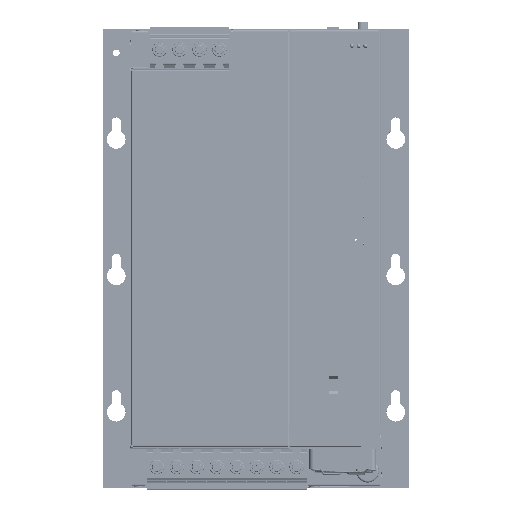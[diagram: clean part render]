
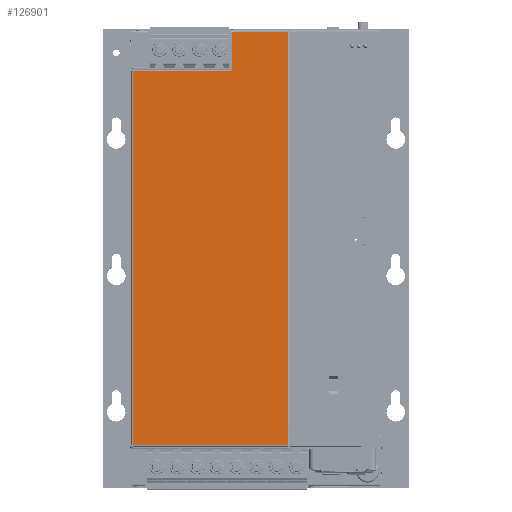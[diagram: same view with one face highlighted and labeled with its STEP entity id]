
A CAD part, top view. The second image highlights one B-rep face of the part: STEP entity #126901.
In plain terms, the highlighted planar face has unit normal (0, 0, 1) as drawn and (0, 1, 0) by its records, which use the part's own axes.
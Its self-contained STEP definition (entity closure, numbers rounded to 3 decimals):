
#20320 = ORIENTED_EDGE ( 'NONE', *, *, #246068, .T. ) ;
#20323 = ORIENTED_EDGE ( 'NONE', *, *, #246056, .T. ) ;
#20327 = ORIENTED_EDGE ( 'NONE', *, *, #245774, .T. ) ;
#20330 = ORIENTED_EDGE ( 'NONE', *, *, #246046, .T. ) ;
#20332 = ORIENTED_EDGE ( 'NONE', *, *, #245750, .F. ) ;
#20343 = ORIENTED_EDGE ( 'NONE', *, *, #246042, .T. ) ;
#20355 = ORIENTED_EDGE ( 'NONE', *, *, #246034, .T. ) ;
#20377 = ORIENTED_EDGE ( 'NONE', *, *, #246024, .T. ) ;
#20388 = ORIENTED_EDGE ( 'NONE', *, *, #245666, .F. ) ;
#20395 = ORIENTED_EDGE ( 'NONE', *, *, #246019, .T. ) ;
#20402 = ORIENTED_EDGE ( 'NONE', *, *, #245688, .T. ) ;
#20411 = ORIENTED_EDGE ( 'NONE', *, *, #245468, .T. ) ;
#20416 = ORIENTED_EDGE ( 'NONE', *, *, #246014, .T. ) ;
#20418 = ORIENTED_EDGE ( 'NONE', *, *, #245477, .T. ) ;
#20421 = ORIENTED_EDGE ( 'NONE', *, *, #245364, .T. ) ;
#20422 = ORIENTED_EDGE ( 'NONE', *, *, #246009, .T. ) ;
#20423 = ORIENTED_EDGE ( 'NONE', *, *, #245339, .F. ) ;
#20424 = ORIENTED_EDGE ( 'NONE', *, *, #246072, .T. ) ;
#30518 = EDGE_LOOP ( 'NONE', ( #20424, #20423, #20422, #20421, #20418, #20416, #20411, #20402, #20395, #20388, #20377, #20355, #20343, #20332, #20330, #20327, #20323, #20320 ) ) ;
#36110 = LINE ( 'NONE', #79338, #36116 ) ;
#36116 = VECTOR ( 'NONE', #79344, 1000. ) ;
#36154 = LINE ( 'NONE', #79449, #36161 ) ;
#36161 = VECTOR ( 'NONE', #79454, 1000. ) ;
#36509 = LINE ( 'NONE', #80438, #36538 ) ;
#36538 = VECTOR ( 'NONE', #80468, 1000. ) ;
#36556 = LINE ( 'NONE', #80509, #36578 ) ;
#36578 = VECTOR ( 'NONE', #80546, 1000. ) ;
#55904 = CARTESIAN_POINT ( 'NONE',  ( 22.8, 20., 170.05 ) ) ;
#55914 = CARTESIAN_POINT ( 'NONE',  ( -18.2, 20., -140.75 ) ) ;
#55944 = CARTESIAN_POINT ( 'NONE',  ( 22.8, 20., 170.25 ) ) ;
#55948 = CARTESIAN_POINT ( 'NONE',  ( -18.2, 20., -140.55 ) ) ;
#55974 = CARTESIAN_POINT ( 'NONE',  ( -93.55, 20., 170.05 ) ) ;
#56045 = CARTESIAN_POINT ( 'NONE',  ( -19.4, 20., -111.05 ) ) ;
#56047 = CARTESIAN_POINT ( 'NONE',  ( 23., 20., -140.55 ) ) ;
#56054 = CARTESIAN_POINT ( 'NONE',  ( 23., 20., 170.05 ) ) ;
#56080 = CARTESIAN_POINT ( 'NONE',  ( -20.4, 20., -111.25 ) ) ;
#56083 = CARTESIAN_POINT ( 'NONE',  ( -20.4, 20., -111.05 ) ) ;
#56155 = CARTESIAN_POINT ( 'NONE',  ( -93.55, 20., -111.05 ) ) ;
#56162 = CARTESIAN_POINT ( 'NONE',  ( -93.55, 20., -111.25 ) ) ;
#56165 = CARTESIAN_POINT ( 'NONE',  ( -93.75, 20., -111.05 ) ) ;
#56230 = CARTESIAN_POINT ( 'NONE',  ( -93.55, 20., 170.25 ) ) ;
#73270 = VERTEX_POINT ( 'NONE', #76017 ) ;
#73827 = VERTEX_POINT ( 'NONE', #76744 ) ;
#75153 = VERTEX_POINT ( 'NONE', #77876 ) ;
#75156 = VERTEX_POINT ( 'NONE', #77880 ) ;
#76017 = CARTESIAN_POINT ( 'NONE',  ( -93.75, 20., 170.05 ) ) ;
#76637 = VERTEX_POINT ( 'NONE', #55904 ) ;
#76654 = VERTEX_POINT ( 'NONE', #55914 ) ;
#76713 = VERTEX_POINT ( 'NONE', #55944 ) ;
#76722 = VERTEX_POINT ( 'NONE', #55948 ) ;
#76744 = CARTESIAN_POINT ( 'NONE',  ( -19.4, 20., -140.55 ) ) ;
#76773 = VERTEX_POINT ( 'NONE', #55974 ) ;
#76909 = VERTEX_POINT ( 'NONE', #56045 ) ;
#76914 = VERTEX_POINT ( 'NONE', #56047 ) ;
#76927 = VERTEX_POINT ( 'NONE', #56054 ) ;
#76976 = VERTEX_POINT ( 'NONE', #56080 ) ;
#76979 = VERTEX_POINT ( 'NONE', #56083 ) ;
#77133 = VERTEX_POINT ( 'NONE', #56155 ) ;
#77147 = VERTEX_POINT ( 'NONE', #56162 ) ;
#77151 = VERTEX_POINT ( 'NONE', #56165 ) ;
#77591 = VERTEX_POINT ( 'NONE', #56230 ) ;
#77876 = CARTESIAN_POINT ( 'NONE',  ( 22.8, 20., -140.75 ) ) ;
#77880 = CARTESIAN_POINT ( 'NONE',  ( 22.8, 20., -140.55 ) ) ;
#79338 = CARTESIAN_POINT ( 'NONE',  ( -20.4, 20., -111.25 ) ) ;
#79344 = DIRECTION ( 'NONE',  ( 0., 0., 1. ) ) ;
#79449 = CARTESIAN_POINT ( 'NONE',  ( -93.55, 20., -111.05 ) ) ;
#79454 = DIRECTION ( 'NONE',  ( 0., 0., 1. ) ) ;
#80438 = CARTESIAN_POINT ( 'NONE',  ( -93.55, 20., 170.05 ) ) ;
#80468 = DIRECTION ( 'NONE',  ( 1., 0., 0. ) ) ;
#80509 = CARTESIAN_POINT ( 'NONE',  ( -94.75, 20., -111.05 ) ) ;
#80546 = DIRECTION ( 'NONE',  ( -1., 0., 0. ) ) ;
#81922 = CARTESIAN_POINT ( 'NONE',  ( 22.8, 20., 171.25 ) ) ;
#81940 = DIRECTION ( 'NONE',  ( 0., 0., 1. ) ) ;
#82072 = CARTESIAN_POINT ( 'NONE',  ( -93.55, 20., 171.25 ) ) ;
#82088 = DIRECTION ( 'NONE',  ( 0., 0., 1. ) ) ;
#106038 = AXIS2_PLACEMENT_3D ( 'NONE', #203781, #203766, #203787 ) ;
#126901 = ADVANCED_FACE ( 'NONE', ( #200102 ), #203784, .T. ) ;
#200102 = FACE_OUTER_BOUND ( 'NONE', #30518, .T. ) ;
#203766 = DIRECTION ( 'NONE',  ( 0., 1., 0. ) ) ;
#203781 = CARTESIAN_POINT ( 'NONE',  ( 24., 20., 171.25 ) ) ;
#203784 = PLANE ( 'NONE',  #106038 ) ;
#203787 = DIRECTION ( 'NONE',  ( 0., 0., 1. ) ) ;
#210625 = CARTESIAN_POINT ( 'NONE',  ( 22.8, 20., -140.75 ) ) ;
#210627 = DIRECTION ( 'NONE',  ( 0., 0., 1. ) ) ;
#210772 = CARTESIAN_POINT ( 'NONE',  ( -18.2, 20., -141.25 ) ) ;
#210775 = DIRECTION ( 'NONE',  ( 0., 0., 1. ) ) ;
#211991 = DIRECTION ( 'NONE',  ( -1., 0., 0. ) ) ;
#211993 = CARTESIAN_POINT ( 'NONE',  ( 24., 20., -111.25 ) ) ;
#212016 = CARTESIAN_POINT ( 'NONE',  ( -93.75, 20., 171.25 ) ) ;
#212038 = DIRECTION ( 'NONE',  ( 0., 0., 1. ) ) ;
#212066 = CARTESIAN_POINT ( 'NONE',  ( 24., 20., 170.25 ) ) ;
#212084 = DIRECTION ( 'NONE',  ( 1., 0., 0. ) ) ;
#212086 = CARTESIAN_POINT ( 'NONE',  ( 24., 20., 170.05 ) ) ;
#212116 = DIRECTION ( 'NONE',  ( 1., 0., 0. ) ) ;
#212175 = CARTESIAN_POINT ( 'NONE',  ( 23., 20., 171.25 ) ) ;
#212177 = DIRECTION ( 'NONE',  ( 0., 0., -1. ) ) ;
#212229 = CARTESIAN_POINT ( 'NONE',  ( 24., 20., -140.55 ) ) ;
#212234 = DIRECTION ( 'NONE',  ( -1., 0., 0. ) ) ;
#212257 = CARTESIAN_POINT ( 'NONE',  ( 24., 20., -140.75 ) ) ;
#212262 = DIRECTION ( 'NONE',  ( -1., 0., 0. ) ) ;
#212291 = DIRECTION ( 'NONE',  ( -1., 0., 0. ) ) ;
#212312 = CARTESIAN_POINT ( 'NONE',  ( 24., 20., -140.55 ) ) ;
#212393 = CARTESIAN_POINT ( 'NONE',  ( 24., 20., -111.05 ) ) ;
#212407 = CARTESIAN_POINT ( 'NONE',  ( -19.4, 20., 171.25 ) ) ;
#212410 = DIRECTION ( 'NONE',  ( 0., 0., 1. ) ) ;
#212433 = DIRECTION ( 'NONE',  ( -1., 0., 0. ) ) ;
#240353 = LINE ( 'NONE', #81922, #240365 ) ;
#240365 = VECTOR ( 'NONE', #81940, 1000. ) ;
#240407 = LINE ( 'NONE', #82072, #240416 ) ;
#240416 = VECTOR ( 'NONE', #82088, 1000. ) ;
#240526 = LINE ( 'NONE', #210625, #240527 ) ;
#240527 = VECTOR ( 'NONE', #210627, 1000. ) ;
#240566 = LINE ( 'NONE', #210772, #240569 ) ;
#240569 = VECTOR ( 'NONE', #210775, 1000. ) ;
#241004 = LINE ( 'NONE', #212016, #241013 ) ;
#241006 = LINE ( 'NONE', #211993, #241008 ) ;
#241008 = VECTOR ( 'NONE', #211991, 1000. ) ;
#241013 = VECTOR ( 'NONE', #212038, 1000. ) ;
#241015 = LINE ( 'NONE', #212066, #241017 ) ;
#241017 = VECTOR ( 'NONE', #212084, 1000. ) ;
#241018 = LINE ( 'NONE', #212086, #241025 ) ;
#241025 = VECTOR ( 'NONE', #212116, 1000. ) ;
#241036 = LINE ( 'NONE', #212175, #241039 ) ;
#241039 = VECTOR ( 'NONE', #212177, 1000. ) ;
#241051 = LINE ( 'NONE', #212229, #241054 ) ;
#241054 = VECTOR ( 'NONE', #212234, 1000. ) ;
#241058 = LINE ( 'NONE', #212257, #241061 ) ;
#241061 = VECTOR ( 'NONE', #212262, 1000. ) ;
#241070 = LINE ( 'NONE', #212312, #241072 ) ;
#241072 = VECTOR ( 'NONE', #212291, 1000. ) ;
#241079 = LINE ( 'NONE', #212393, #241091 ) ;
#241082 = LINE ( 'NONE', #212407, #241084 ) ;
#241084 = VECTOR ( 'NONE', #212410, 1000. ) ;
#241091 = VECTOR ( 'NONE', #212433, 1000. ) ;
#245339 = EDGE_CURVE ( 'NONE', #76976, #76979, #36110, .T. ) ;
#245364 = EDGE_CURVE ( 'NONE', #77147, #77133, #36154, .T. ) ;
#245468 = EDGE_CURVE ( 'NONE', #73270, #76773, #36509, .T. ) ;
#245477 = EDGE_CURVE ( 'NONE', #77133, #77151, #36556, .T. ) ;
#245666 = EDGE_CURVE ( 'NONE', #76637, #76713, #240353, .T. ) ;
#245688 = EDGE_CURVE ( 'NONE', #76773, #77591, #240407, .T. ) ;
#245750 = EDGE_CURVE ( 'NONE', #75153, #75156, #240526, .T. ) ;
#245774 = EDGE_CURVE ( 'NONE', #76654, #76722, #240566, .T. ) ;
#246009 = EDGE_CURVE ( 'NONE', #76976, #77147, #241006, .T. ) ;
#246014 = EDGE_CURVE ( 'NONE', #77151, #73270, #241004, .T. ) ;
#246019 = EDGE_CURVE ( 'NONE', #77591, #76713, #241015, .T. ) ;
#246024 = EDGE_CURVE ( 'NONE', #76637, #76927, #241018, .T. ) ;
#246034 = EDGE_CURVE ( 'NONE', #76927, #76914, #241036, .T. ) ;
#246042 = EDGE_CURVE ( 'NONE', #76914, #75156, #241051, .T. ) ;
#246046 = EDGE_CURVE ( 'NONE', #75153, #76654, #241058, .T. ) ;
#246056 = EDGE_CURVE ( 'NONE', #76722, #73827, #241070, .T. ) ;
#246068 = EDGE_CURVE ( 'NONE', #73827, #76909, #241082, .T. ) ;
#246072 = EDGE_CURVE ( 'NONE', #76909, #76979, #241079, .T. ) ;
